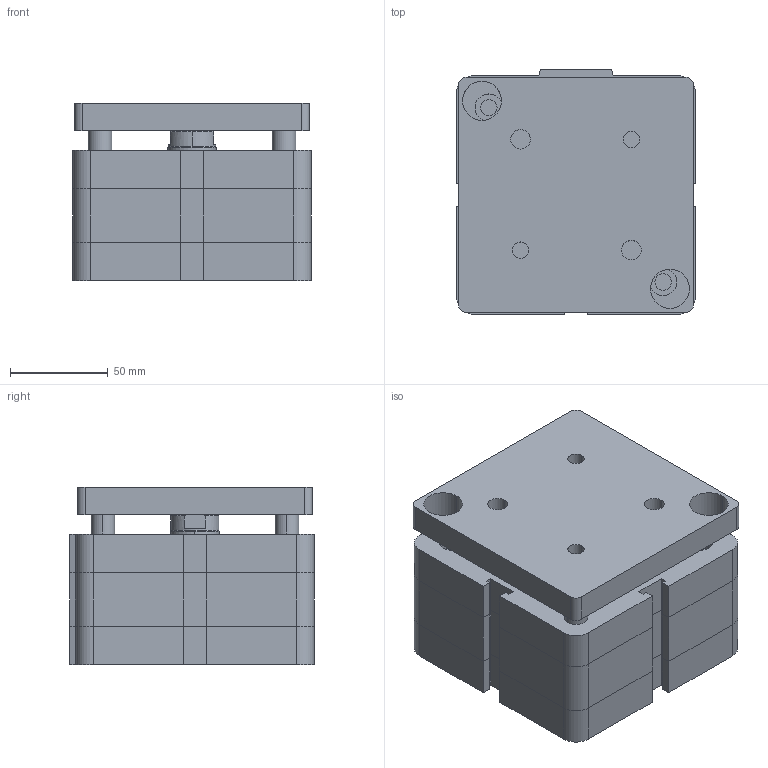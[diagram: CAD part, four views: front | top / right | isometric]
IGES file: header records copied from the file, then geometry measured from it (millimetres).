
Global section: file name: No Iges File Name specified; native system: Autodesk Inventor 2009; preprocessor: AutoDesk Inventor Iges Exporter R2009; author: maffial1; date: 20090420.201257; units: millimetre
Bounding box: 122 x 125 x 90.5 mm (x, y, z)
Volume: 1154367.3 mm3; surface area: 115461.9 mm2
Topology: 2 solids, 2 shells, 212 faces, 486 edges, 298 vertices
Faces by surface type: plane 111, bspline 67, cylinder 26, cone 8
